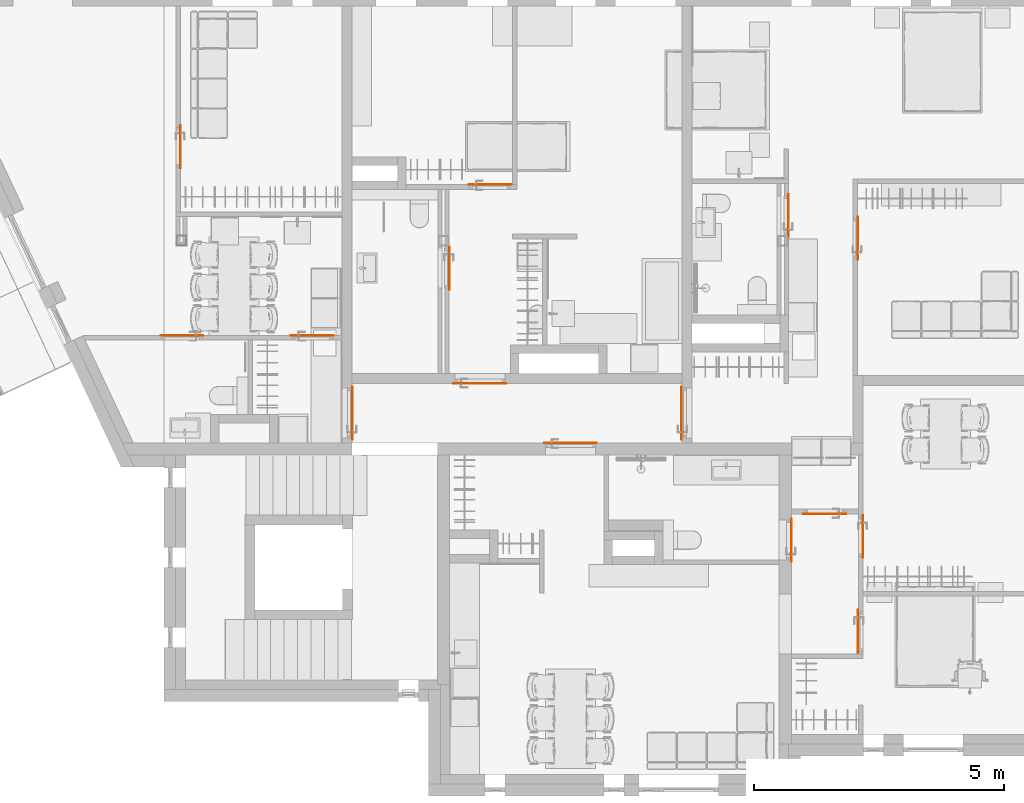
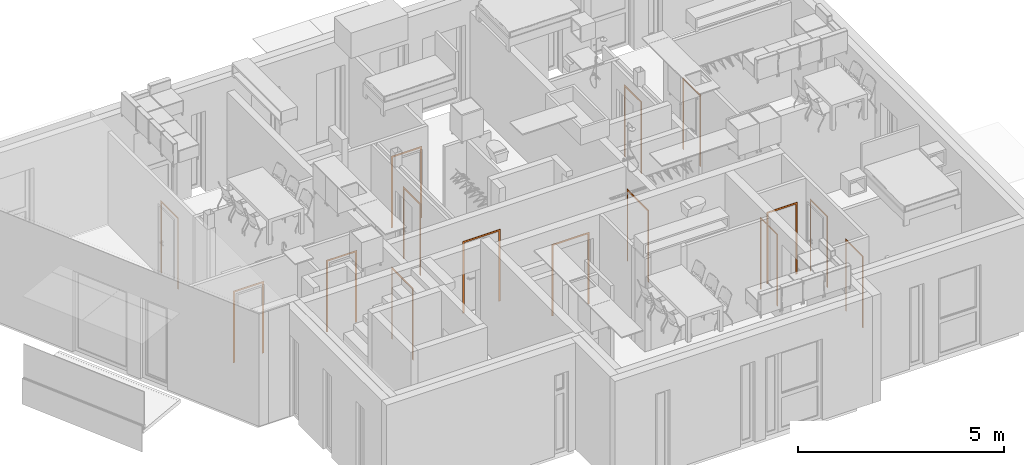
# One storey, part 40 of 68: 15 proxies.
"""IFC2X3 building model written with IfcOpenShell, lengths in millimetres."""

from ifc_helpers import new_model, entity, si_unit, converted_unit, direction, frame, origin, origin_2d_with_axis, place, context, subcontext, project, spatial, rectangle, extrude, source, transform, mapped, material, type_object, type_shapes, element, save


model = new_model("IFC2X3")

# Units and contexts
model_context = context("Model", 3, precision=0.01, world=origin(), true_north=direction((6.123233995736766e-17, 1.0)))
plan_context = context("Plan", 3, precision=0.01, world=origin(), true_north=direction((6.123233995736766e-17, 1.0)))
body_context = subcontext(model_context, "Body", "Model", "MODEL_VIEW")
ifc_project = project(units=[si_unit("LENGTHUNIT", "METRE", prefix="MILLI"), converted_unit("PLANEANGLEUNIT", "DEGREE", entity("IfcPlaneAngleMeasure", 0.017453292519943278), si_unit("PLANEANGLEUNIT", "RADIAN"), dimensions=[0, 0, 0, 0, 0, 0, 0]), si_unit("AREAUNIT", "SQUARE_METRE")], contexts=[model_context, plan_context])

# Site, building, storey, space
site_placement = place(None, origin())
site = spatial("IfcSite", under=ifc_project, at=site_placement, Name="Default", CompositionType="ELEMENT")
building_placement = place(site_placement, origin())
building = spatial("IfcBuilding", under=site, at=building_placement, CompositionType="ELEMENT")
storey_placement = place(building_placement, frame((0.0, 0.0, 6295.0)))
storey = spatial("IfcBuildingStorey", under=building, at=storey_placement, Name="3K", CompositionType="ELEMENT", Elevation=6294.999999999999)
space_1_placement = place(storey_placement, origin())
space_1 = spatial("IfcSpace", under=storey, at=space_1_placement, Name="3-0.3", CompositionType="ELEMENT", InteriorOrExteriorSpace="INTERNAL")

# Proxies
ifc_material_1 = material(Name="<Unnamed>")
building_element_proxy_type_1 = type_object("IfcBuildingElementProxyType", Name="Door-casing_Rectangle:Door-casing_Rectangle", PredefinedType="NOTDEFINED", material=ifc_material_1)
shared_shape_1 = source(origin(), body_context, "Body", "SweptSolid", [
    extrude(rectangle(XDim=9.999999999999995, YDim=49.99999999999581, at=origin_2d_with_axis()), frame((-505.0, 5.0, 0.0), z_axis=(0.0, 0.0, 1.0), x_axis=(0.0, 1.0, 0.0)), (0.0, 0.0, 1.0), 2130.000000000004),
    extrude(rectangle(XDim=9.999999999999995, YDim=50.0000000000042, at=origin_2d_with_axis()), frame((505.0, 5.0, 0.0), z_axis=(0.0, 0.0, 1.0), x_axis=(0.0, 1.0, 0.0)), (0.0, 0.0, 1.0), 2130.000000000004),
    extrude(rectangle(XDim=9.999999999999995, YDim=960.0000000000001, at=origin_2d_with_axis()), frame((0.0, 5.0, 2080.0), z_axis=(0.0, 0.0, 1.0), x_axis=(0.0, 1.0, 0.0)), (0.0, 0.0, 1.0), 50.000000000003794),
])
type_shapes(building_element_proxy_type_1, [shared_shape_1])
for number, where, z_axis, x_axis, name in (
    (1, (3344.9935349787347, 7244.999979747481, 0.0), (0.0, 0.0, 1.0), (0.0, -1.0, 0.0), "Door-casing_Rectangle:Door-casing_Rectangle"),
    (2, (5904.0, 7840.0, 0.0), (0.0, 0.0, 1.0), (-1.0, 0.0, 0.0), "Door-casing_Rectangle:Door-casing_Rectangle"),
    (3, (9950.0, 7244.999979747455, 0.0), (0.0, 0.0, 1.0), (0.0, 1.0, 0.0), "Door-casing_Rectangle:Door-casing_Rectangle"),
):
    element("IfcBuildingElementProxy", number, at=place(space_1_placement, frame(where, z_axis=z_axis, x_axis=x_axis)), inside=space_1, type_object=building_element_proxy_type_1, material=ifc_material_1, Name=name, ObjectType="Door-casing_Rectangle:Door-casing_Rectangle", context=body_context, shape_type="MappedRepresentation", body=[
        mapped(shared_shape_1, transform((0.0, 0.0, 0.0), scale=1.0)),
    ])
proxy_1_placement = place(space_1_placement, frame((7720.0, 6644.999959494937, 0.0)))
element("IfcBuildingElementProxy", 4, at=proxy_1_placement, inside=space_1, type_object=building_element_proxy_type_1, material=ifc_material_1, Name="Door-casing_Rectangle:Door-casing_Rectangle", ObjectType="Door-casing_Rectangle:Door-casing_Rectangle", context=body_context, shape_type="MappedRepresentation", body=[
    mapped(shared_shape_1, transform((0.0, 0.0, 0.0), scale=1.0)),
])

# Space
space_2_placement = place(storey_placement, origin())
space_2 = spatial("IfcSpace", under=storey, at=space_2_placement, Name="3-5.3", CompositionType="ELEMENT", InteriorOrExteriorSpace="INTERNAL")

# Proxy
ifc_material_2 = material(Name="_K. Puit. Peitsitud ja lakitud")
building_element_proxy_type_2 = type_object("IfcBuildingElementProxyType", Name="Door-casing_Rectangle:Door-casing_Rectangle", PredefinedType="NOTDEFINED", material=ifc_material_2)
shared_shape_2 = source(origin(), body_context, "Body", "SweptSolid", [
    extrude(rectangle(XDim=9.999999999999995, YDim=49.99999999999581, at=origin_2d_with_axis()), frame((-405.0, 5.0, 0.0), z_axis=(0.0, 0.0, 1.0), x_axis=(0.0, 1.0, 0.0)), (0.0, 0.0, 1.0), 2130.000000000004),
    extrude(rectangle(XDim=9.999999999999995, YDim=50.0000000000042, at=origin_2d_with_axis()), frame((405.0, 5.0, 0.0), z_axis=(0.0, 0.0, 1.0), x_axis=(0.0, 1.0, 0.0)), (0.0, 0.0, 1.0), 2130.000000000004),
    extrude(rectangle(XDim=9.999999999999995, YDim=760.0000000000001, at=origin_2d_with_axis()), frame((0.0, 5.0, 2080.0), z_axis=(0.0, 0.0, 1.0), x_axis=(0.0, 1.0, 0.0)), (0.0, 0.0, 1.0), 50.000000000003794),
])
type_shapes(building_element_proxy_type_2, [shared_shape_2])
proxy_2_placement = place(space_2_placement, frame((-96.01000000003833, 12579.0, 0.0), z_axis=(0.0, 0.0, 1.0), x_axis=(0.0, -1.0, 0.0)))
element("IfcBuildingElementProxy", 5, at=proxy_2_placement, inside=space_2, type_object=building_element_proxy_type_2, material=ifc_material_2, Name="Door-casing_Rectangle:Door-casing_Rectangle", ObjectType="Door-casing_Rectangle:Door-casing_Rectangle", context=body_context, shape_type="MappedRepresentation", body=[
    mapped(shared_shape_2, transform((0.0, 0.0, 0.0), scale=1.0)),
])

# Space
space_3_placement = place(storey_placement, origin())
space_3 = spatial("IfcSpace", under=storey, at=space_3_placement, Name="3-5.2", CompositionType="ELEMENT", InteriorOrExteriorSpace="INTERNAL")

# Proxies
for number, where, name in (
    (6, (-65.00646502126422, 8798.0, 0.0), "Door-casing_Rectangle:Door-casing_Rectangle"),
    (7, (2544.9935349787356, 8798.0, 0.0), "Door-casing_Rectangle:Door-casing_Rectangle"),
):
    element("IfcBuildingElementProxy", number, at=place(space_3_placement, frame(where)), inside=space_3, type_object=building_element_proxy_type_2, material=ifc_material_2, Name=name, ObjectType="Door-casing_Rectangle:Door-casing_Rectangle", context=body_context, shape_type="MappedRepresentation", body=[
        mapped(shared_shape_2, transform((0.0, 0.0, 0.0), scale=1.0)),
    ])

# Space
space_4_placement = place(storey_placement, origin())
space_4 = spatial("IfcSpace", under=storey, at=space_4_placement, Name="3-6.3", CompositionType="ELEMENT", InteriorOrExteriorSpace="INTERNAL")

# Proxy
proxy_3_placement = place(space_4_placement, frame((6108.0, 11822.0, 0.0)))
element("IfcBuildingElementProxy", 8, at=proxy_3_placement, inside=space_4, type_object=building_element_proxy_type_2, material=ifc_material_2, Name="Door-casing_Rectangle:Door-casing_Rectangle", ObjectType="Door-casing_Rectangle:Door-casing_Rectangle", context=body_context, shape_type="MappedRepresentation", body=[
    mapped(shared_shape_2, transform((0.0, 0.0, 0.0), scale=1.0)),
])

# Space
space_5_placement = place(storey_placement, origin())
space_5 = spatial("IfcSpace", under=storey, at=space_5_placement, Name="3-6.1", CompositionType="ELEMENT", InteriorOrExteriorSpace="INTERNAL")

# Proxy
proxy_4_placement = place(space_5_placement, frame((5288.0, 10150.0, 0.0), z_axis=(0.0, 0.0, 1.0), x_axis=(0.0, -1.0, 0.0)))
element("IfcBuildingElementProxy", 9, at=proxy_4_placement, inside=space_5, type_object=building_element_proxy_type_2, material=ifc_material_2, Name="Door-casing_Rectangle:Door-casing_Rectangle", ObjectType="Door-casing_Rectangle:Door-casing_Rectangle", context=body_context, shape_type="MappedRepresentation", body=[
    mapped(shared_shape_2, transform((0.0, 0.0, 0.0), scale=1.0)),
])

# Space
space_6_placement = place(storey_placement, origin())
space_6 = spatial("IfcSpace", under=storey, at=space_6_placement, Name="3-7.1", CompositionType="ELEMENT", InteriorOrExteriorSpace="INTERNAL")

# Proxy
proxy_5_placement = place(space_6_placement, frame((12088.0, 11200.0, 0.0), z_axis=(0.0, 0.0, 1.0), x_axis=(0.0, -1.0, 0.0)))
element("IfcBuildingElementProxy", 10, at=proxy_5_placement, inside=space_6, type_object=building_element_proxy_type_2, material=ifc_material_2, Name="Door-casing_Rectangle:Door-casing_Rectangle", ObjectType="Door-casing_Rectangle:Door-casing_Rectangle", context=body_context, shape_type="MappedRepresentation", body=[
    mapped(shared_shape_2, transform((0.0, 0.0, 0.0), scale=1.0)),
])

# Space
space_7_placement = place(storey_placement, origin())
space_7 = spatial("IfcSpace", under=storey, at=space_7_placement, Name="3-7.3", CompositionType="ELEMENT", InteriorOrExteriorSpace="INTERNAL")

# Proxy
proxy_6_placement = place(space_7_placement, frame((13472.0, 10748.0, 0.0), z_axis=(0.0, 0.0, 1.0), x_axis=(0.0, -1.0, 0.0)))
element("IfcBuildingElementProxy", 11, at=proxy_6_placement, inside=space_7, type_object=building_element_proxy_type_2, material=ifc_material_2, Name="Door-casing_Rectangle:Door-casing_Rectangle", ObjectType="Door-casing_Rectangle:Door-casing_Rectangle", context=body_context, shape_type="MappedRepresentation", body=[
    mapped(shared_shape_2, transform((0.0, 0.0, 0.0), scale=1.0)),
])

# Space
space_8_placement = place(storey_placement, origin())
space_8 = spatial("IfcSpace", under=storey, at=space_8_placement, Name="3-8.3", CompositionType="ELEMENT", InteriorOrExteriorSpace="INTERNAL")

# Proxy
proxy_7_placement = place(space_8_placement, frame((12818.996767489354, 5227.999959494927, 0.0), z_axis=(0.0, 0.0, 1.0), x_axis=(-1.0, 0.0, 0.0)))
element("IfcBuildingElementProxy", 12, at=proxy_7_placement, inside=space_8, type_object=building_element_proxy_type_2, material=ifc_material_2, Name="Door-casing_Rectangle:Door-casing_Rectangle", ObjectType="Door-casing_Rectangle:Door-casing_Rectangle", context=body_context, shape_type="MappedRepresentation", body=[
    mapped(shared_shape_2, transform((0.0, 0.0, 0.0), scale=1.0)),
])

# Space
space_9_placement = place(storey_placement, origin())
space_9 = spatial("IfcSpace", under=storey, at=space_9_placement, Name="3-8.4", CompositionType="ELEMENT", InteriorOrExteriorSpace="INTERNAL")

# Proxies
proxy_8_placement = place(space_9_placement, frame((13580.0, 4772.0, 0.0), z_axis=(0.0, 0.0, 1.0), x_axis=(0.0, -1.0, 0.0)))
element("IfcBuildingElementProxy", 13, at=proxy_8_placement, inside=space_9, type_object=building_element_proxy_type_2, material=ifc_material_2, Name="Door-casing_Rectangle:Door-casing_Rectangle", ObjectType="Door-casing_Rectangle:Door-casing_Rectangle", context=body_context, shape_type="MappedRepresentation", body=[
    mapped(shared_shape_2, transform((0.0, 0.0, 0.0), scale=1.0)),
])
for number, where, z_axis, x_axis, name in (
    (14, (13488.0, 2869.999959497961, 0.0), (0.0, 0.0, 1.0), (0.0, 1.0, 0.0), "Door-casing_Rectangle:Door-casing_Rectangle"),
    (15, (12144.993534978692, 4699.997631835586, 0.0), (0.0, 0.0, 1.0), (0.0, -1.0, 0.0), "Door-casing_Rectangle:Door-casing_Rectangle"),
):
    element("IfcBuildingElementProxy", number, at=place(space_8_placement, frame(where, z_axis=z_axis, x_axis=x_axis)), inside=space_8, type_object=building_element_proxy_type_2, material=ifc_material_2, Name=name, ObjectType="Door-casing_Rectangle:Door-casing_Rectangle", context=body_context, shape_type="MappedRepresentation", body=[
        mapped(shared_shape_2, transform((0.0, 0.0, 0.0), scale=1.0)),
    ])

save(model, "model.ifc")
